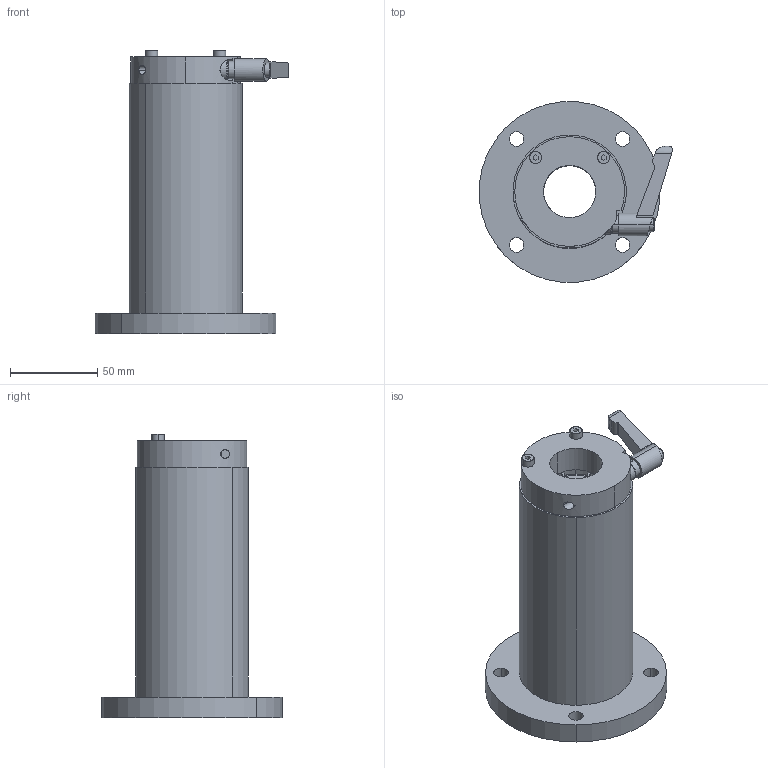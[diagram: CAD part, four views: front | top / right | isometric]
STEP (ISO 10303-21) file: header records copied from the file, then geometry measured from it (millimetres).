
FILE_DESCRIPTION (( 'STEP AP214' ), '1' );
FILE_NAME ('LFW30-CS.STEP', '2023-06-27T01:54:52', ( '' ), ( '' ), 'SwSTEP 2.0', 'SolidWorks 2019', '' );
FILE_SCHEMA (( 'AUTOMOTIVE_DESIGN' ));
Length unit declared in the file: millimetre
Products named in the file (3): LFW30-CS; “ÁSCK3015SS-S4.5; LFW30
Assembly tree (2 placements, depth 2):
  LFW30-CS
    LFW30
    “ÁSCK3015SS-S4.5
Bounding box: 110.9 x 103.6 x 163 mm (x, y, z)
Volume: 462360.6 mm3; surface area: 82888.2 mm2
Topology: 3 solids, 8 shells, 192 faces, 492 edges, 310 vertices
Faces by surface type: cylinder 77, plane 57, bspline 39, cone 11, torus 8
Entity records: 8810 total; most frequent: CARTESIAN_POINT 1862, DIRECTION 1035, ORIENTED_EDGE 984, EDGE_CURVE 492, AXIS2_PLACEMENT_3D 429, VERTEX_POINT 310, CIRCLE 271, EDGE_LOOP 232
